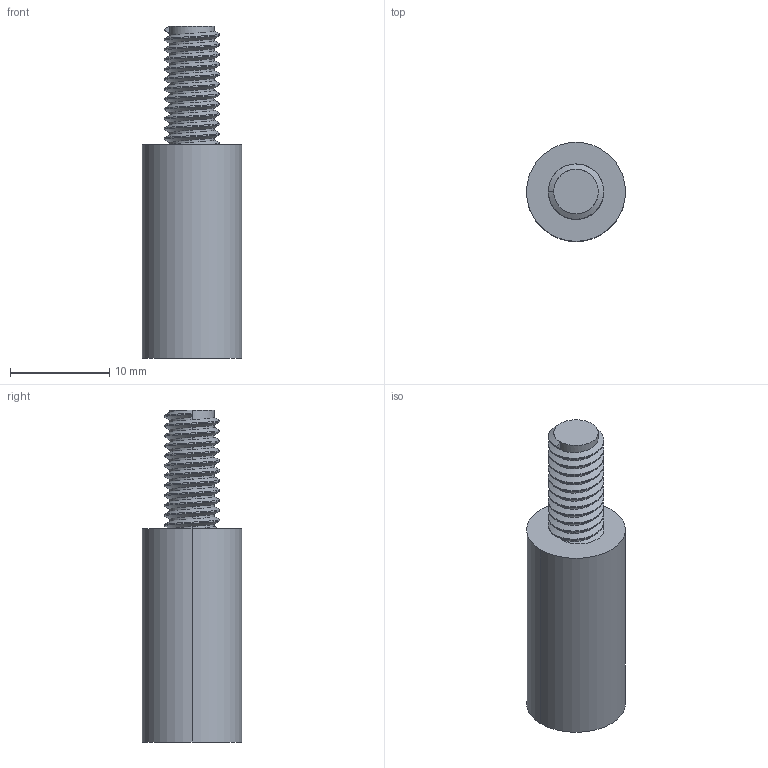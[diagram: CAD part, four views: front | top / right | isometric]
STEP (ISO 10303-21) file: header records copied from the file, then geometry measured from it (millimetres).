
FILE_DESCRIPTION (( 'STEP AP203' ), '1' );
FILE_NAME ('T010204.STEP', '2018-02-27T09:40:58', ( '' ), ( '' ), 'SwSTEP 2.0', 'SolidWorks 2016', '' );
FILE_SCHEMA (( 'CONFIG_CONTROL_DESIGN' ));
Length unit declared in the file: millimetre
Products named in the file (1): T010204
Bounding box: 10 x 10 x 33.5 mm (x, y, z)
Volume: 1835.1 mm3; surface area: 1200.7 mm2
Topology: 1 solids, 1 shells, 41 faces, 107 edges, 70 vertices
Faces by surface type: cylinder 27, plane 11, bspline 3
Entity records: 3088 total; most frequent: CARTESIAN_POINT 2159, ORIENTED_EDGE 214, DIRECTION 140, EDGE_CURVE 107, VERTEX_POINT 70, LINE 48, VECTOR 48, AXIS2_PLACEMENT_3D 46
